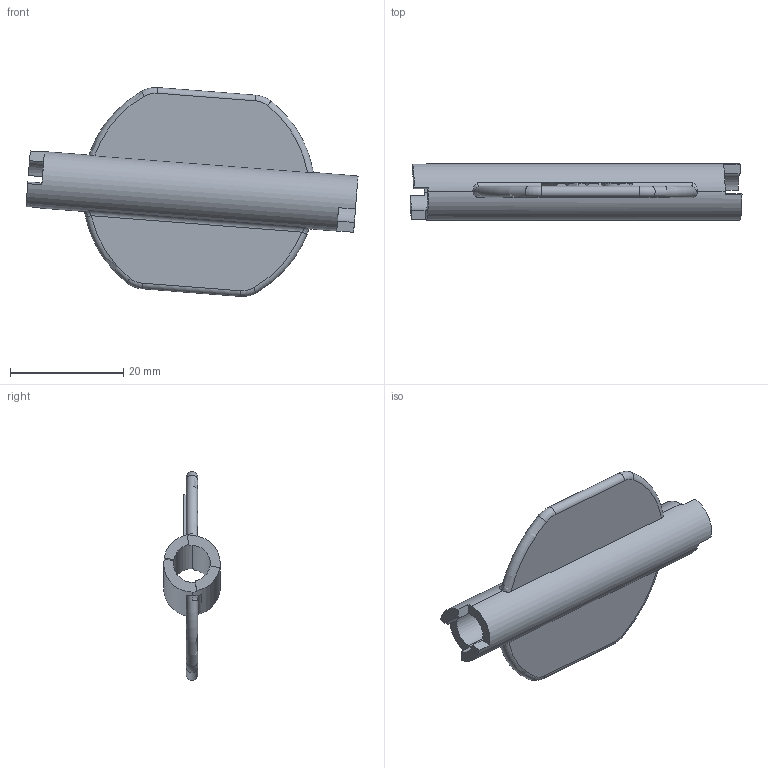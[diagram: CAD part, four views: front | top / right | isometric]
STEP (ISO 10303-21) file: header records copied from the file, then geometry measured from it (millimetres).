
FILE_DESCRIPTION((''),'2;1');
FILE_NAME('0000237126_PRT','2025-11-12T18:33:48',('Wyndorps'),(''),'CREO PARAMETRIC BY PTC INC, 2025010','CREO PARAMETRIC BY PTC INC, 2025010','');
FILE_SCHEMA(('CONFIG_CONTROL_DESIGN'));
Length unit declared in the file: millimetre
Products named in the file (1): 0000237126_PRT
Bounding box: 58.67 x 10 x 36.91 mm (x, y, z)
Volume: 4182.7 mm3; surface area: 4680.1 mm2
Topology: 1 solids, 1 shells, 91 faces, 247 edges, 162 vertices
Faces by surface type: plane 50, extrusion 17, cylinder 12, torus 8, bspline 4
Entity records: 3327 total; most frequent: CARTESIAN_POINT 1056, ORIENTED_EDGE 494, DIRECTION 406, EDGE_CURVE 247, VERTEX_POINT 162, VECTOR 154, LINE 137, AXIS2_PLACEMENT_3D 126
